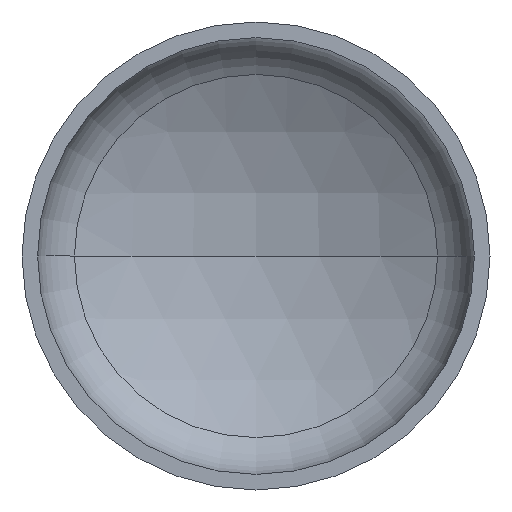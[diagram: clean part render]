
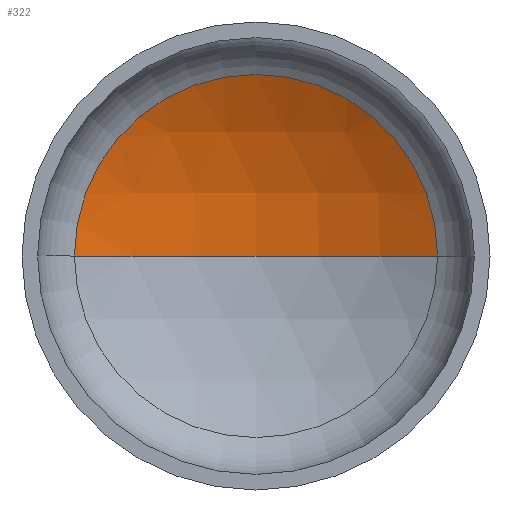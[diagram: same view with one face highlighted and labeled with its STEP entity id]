
A CAD part, front view. The second image highlights one B-rep face of the part: STEP entity #322.
In plain terms, the highlighted spherical face has radius 1440 mm.
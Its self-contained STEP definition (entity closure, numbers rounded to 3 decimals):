
#6 = DIRECTION ( 'NONE',  ( 0., 0., -1. ) ) ;
#9 = AXIS2_PLACEMENT_3D ( 'NONE', #242, #333, #88 ) ;
#12 = AXIS2_PLACEMENT_3D ( 'NONE', #100, #104, #266 ) ;
#32 = EDGE_LOOP ( 'NONE', ( #133, #70, #129 ) ) ;
#39 = AXIS2_PLACEMENT_3D ( 'NONE', #61, #6, #137 ) ;
#40 = AXIS2_PLACEMENT_3D ( 'NONE', #207, #209, #190 ) ;
#46 = VERTEX_POINT ( 'NONE', #259 ) ;
#61 = CARTESIAN_POINT ( 'NONE',  ( 0., -898.823, 0. ) ) ;
#70 = ORIENTED_EDGE ( 'NONE', *, *, #87, .T. ) ;
#79 = EDGE_CURVE ( 'NONE', #166, #46, #263, .T. ) ;
#87 = EDGE_CURVE ( 'NONE', #127, #166, #96, .T. ) ;
#88 = DIRECTION ( 'NONE',  ( 1., 0., 0. ) ) ;
#96 = CIRCLE ( 'NONE', #39, 1440. ) ;
#100 = CARTESIAN_POINT ( 'NONE',  ( 0., -898.823, 0. ) ) ;
#104 = DIRECTION ( 'NONE',  ( 0., 0., -1. ) ) ;
#127 = VERTEX_POINT ( 'NONE', #187 ) ;
#129 = ORIENTED_EDGE ( 'NONE', *, *, #79, .T. ) ;
#133 = ORIENTED_EDGE ( 'NONE', *, *, #356, .F. ) ;
#137 = DIRECTION ( 'NONE',  ( -1., 0., 0. ) ) ;
#166 = VERTEX_POINT ( 'NONE', #256 ) ;
#175 = SPHERICAL_SURFACE ( 'NONE', #12, 1440. ) ;
#187 = CARTESIAN_POINT ( 'NONE',  ( 0., 541.177, 0. ) ) ;
#190 = DIRECTION ( 'NONE',  ( 1., 0., 0. ) ) ;
#207 = CARTESIAN_POINT ( 'NONE',  ( 0., 360.495, 0. ) ) ;
#209 = DIRECTION ( 'NONE',  ( 0., -1., 0. ) ) ;
#242 = CARTESIAN_POINT ( 'NONE',  ( 0., -898.823, 0. ) ) ;
#243 = FACE_OUTER_BOUND ( 'NONE', #32, .T. ) ;
#256 = CARTESIAN_POINT ( 'NONE',  ( 698.369, 360.495, 0. ) ) ;
#259 = CARTESIAN_POINT ( 'NONE',  ( -698.369, 360.495, 0. ) ) ;
#263 = CIRCLE ( 'NONE', #40, 698.369 ) ;
#266 = DIRECTION ( 'NONE',  ( -1., 0., 0. ) ) ;
#280 = CIRCLE ( 'NONE', #9, 1440. ) ;
#322 = ADVANCED_FACE ( 'NONE', ( #243 ), #175, .F. ) ;
#333 = DIRECTION ( 'NONE',  ( 0., 0., 1. ) ) ;
#356 = EDGE_CURVE ( 'NONE', #127, #46, #280, .T. ) ;
